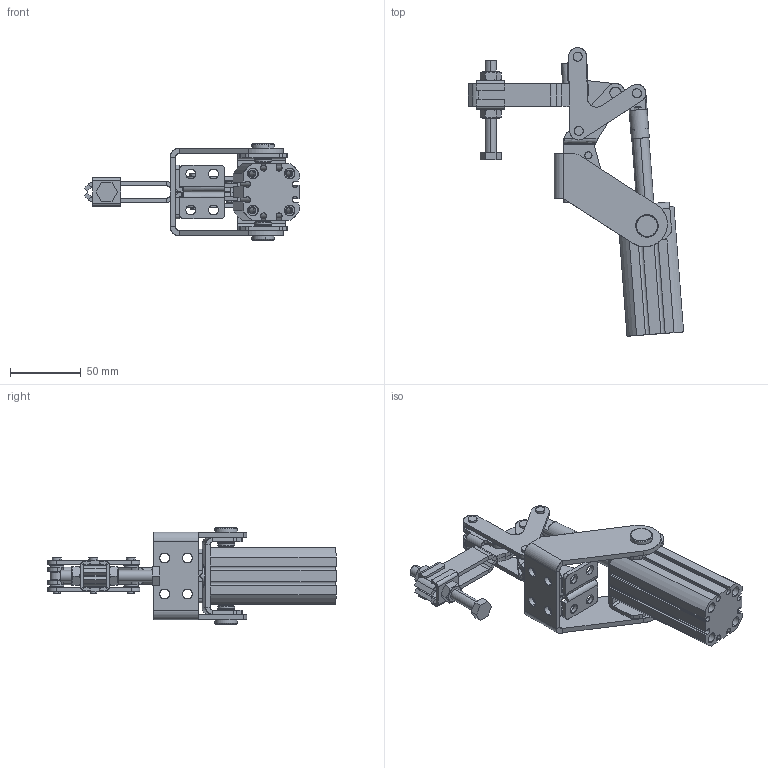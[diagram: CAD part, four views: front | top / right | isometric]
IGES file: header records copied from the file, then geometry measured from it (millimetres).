
Start section: SolidWorks IGES file using analytic representation for surfaces
Global section: file name: C:\Projetos\Grampos\KF-718 P\KF-718 B P\KF-718 B P.IGS; native system: SolidWorks 2013; preprocessor: SolidWorks 2013; author: Ricardo; date: 140828.164720; units: millimetre
Bounding box: 151.75 x 203.47 x 68 mm (x, y, z)
Surface area: 108506.1 mm2 (no closed solid volume)
Topology: 0 solids, 0 shells, 914 faces, 13986 edges, 13970 vertices
Faces by surface type: revolution 550, bspline 364
